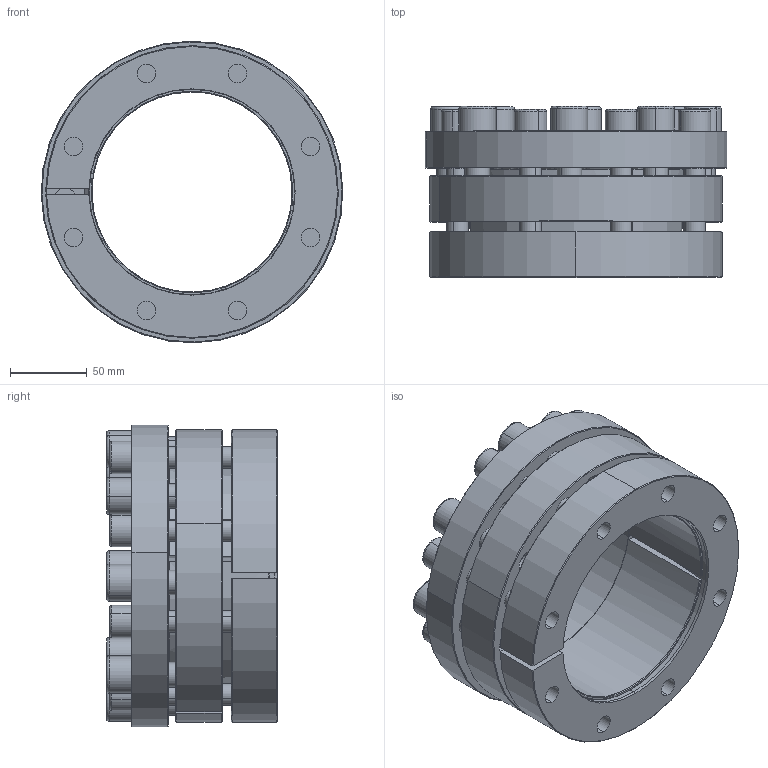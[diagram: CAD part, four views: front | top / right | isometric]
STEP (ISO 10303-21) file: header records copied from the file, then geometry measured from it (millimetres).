
FILE_DESCRIPTION (( 'STEP AP214' ), '1' );
FILE_NAME ('CONEX-P-130x170-P-031.step', '2015-11-30T21:13:25', ( '' ), ( '' ), 'SwSTEP 2.0', 'SolidWorks 2013', '' );
FILE_SCHEMA (( 'AUTOMOTIVE_DESIGN' ));
Length unit declared in the file: millimetre
Products named in the file (1): CONEX-P-130x170-P-031
Bounding box: 195.97 x 111 x 195.97 mm (x, y, z)
Volume: 1377466.5 mm3; surface area: 348819.9 mm2
Topology: 19 solids, 19 shells, 608 faces, 1417 edges, 848 vertices
Faces by surface type: plane 261, cylinder 171, cone 108, torus 68
Entity records: 24923 total; most frequent: CARTESIAN_POINT 3828, DIRECTION 3171, ORIENTED_EDGE 2770, EDGE_CURVE 1385, AXIS2_PLACEMENT_3D 1269, VERTEX_POINT 848, EDGE_LOOP 729, CIRCLE 660
